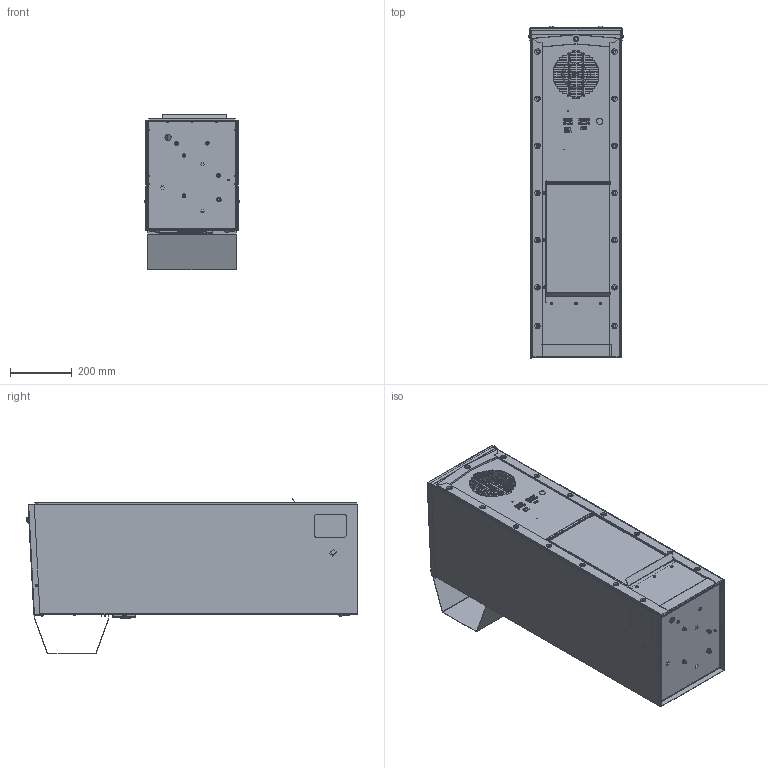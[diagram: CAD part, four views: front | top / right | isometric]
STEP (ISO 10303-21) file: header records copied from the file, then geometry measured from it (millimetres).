
FILE_DESCRIPTION (( 'STEP AP203' ), '1' );
FILE_NAME ('DTS 5561 81.STEP', '2026-04-24T20:53:24', ( '' ), ( '' ), 'SwSTEP 2.0', 'SolidWorks 2024', '' );
FILE_SCHEMA (( 'CONFIG_CONTROL_DESIGN' ));
Length unit declared in the file: millimetre
Products named in the file (1): DTS 5561 81
Bounding box: 306.6 x 1074.37 x 504.87 mm (x, y, z)
Surface area: 4526745.9 mm2 (no closed solid volume)
Topology: 0 solids, 505 shells, 2047 faces, 15231 edges, 13465 vertices
Faces by surface type: plane 1346, cylinder 493, bspline 93, torus 68, cone 29, sphere 18
Entity records: 213843 total; most frequent: CARTESIAN_POINT 108308, ORIENTED_EDGE 18699, DIRECTION 17922, EDGE_CURVE 15204, VERTEX_POINT 13453, VECTOR 9604, LINE 9604, AXIS2_PLACEMENT_3D 4159
